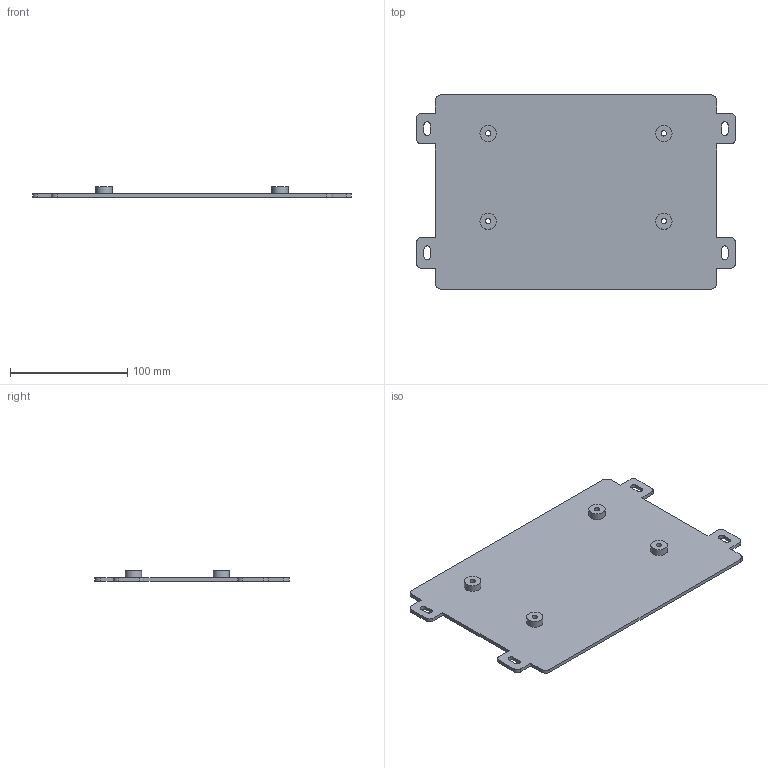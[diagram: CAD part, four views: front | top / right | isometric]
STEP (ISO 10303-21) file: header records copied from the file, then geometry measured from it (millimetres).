
FILE_DESCRIPTION(('Open CASCADE Model'),'2;1');
FILE_NAME('Open CASCADE Shape Model','2026-10-05T19:39:43',('Author'),( 'Open CASCADE'),'Open CASCADE STEP processor 7.8','Open CASCADE 7.8' ,'Unknown');
FILE_SCHEMA(('AUTOMOTIVE_DESIGN { 1 0 10303 214 1 1 1 1 }'));
Length unit declared in the file: millimetre
Products named in the file (1): Open CASCADE STEP translator 7.8 5
Bounding box: 272 x 166 x 9 mm (x, y, z)
Volume: 126773.1 mm3; surface area: 86987.7 mm2
Topology: 1 solids, 1 shells, 62 faces, 168 edges, 112 vertices
Faces by surface type: plane 34, cylinder 28
Full cylindrical faces by diameter (mm): 4.5 x4, 14 x4
Entity records: 4266 total; most frequent: CARTESIAN_POINT 931, DIRECTION 614, LINE 356, VECTOR 356, ORIENTED_EDGE 336, PCURVE 336, DEFINITIONAL_REPRESENTATION 336, EDGE_CURVE 168
